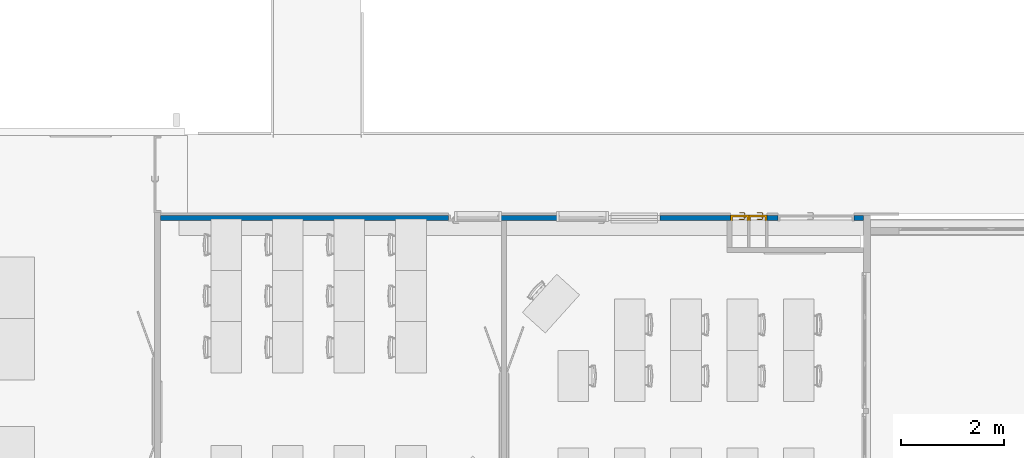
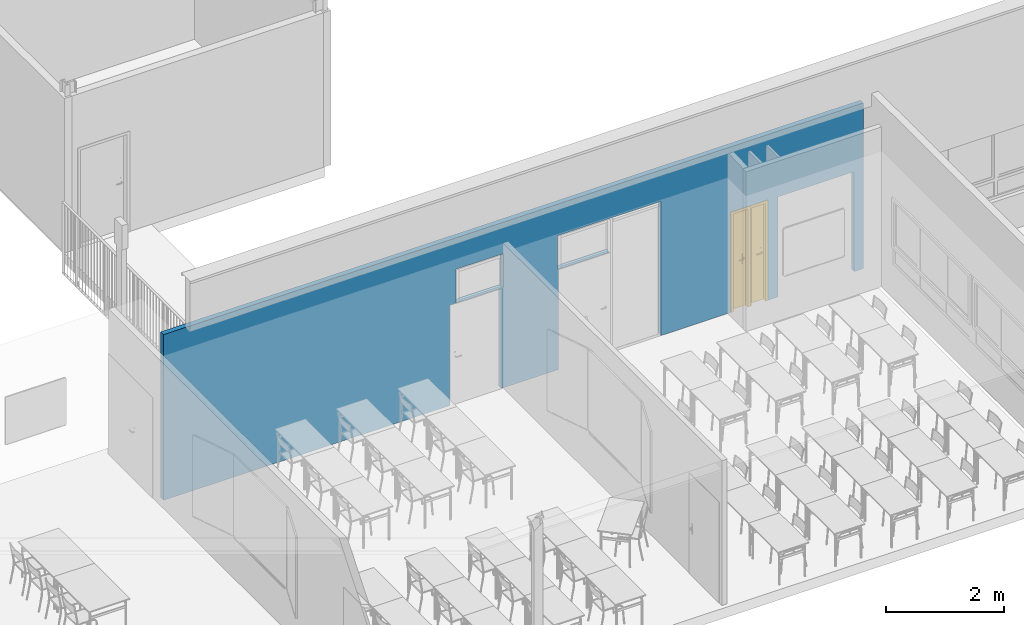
# One storey, part 19 of 44: 2 doors, 1 wall, 8 openings.
"""IFC2X3 building model written with IfcOpenShell, lengths in centimetres."""

from ifc_helpers import new_model, entity, si_unit, converted_unit, derived_unit, direction, frame, frame_2d, origin, place, context, subcontext, project, spatial, rectangle, extrude, faceted_brep, source, transform, mapped, material, material_list, layer, layer_set, layer_usage, type_object, type_shapes, element, fill, save


model = new_model("IFC2X3")

# Units and contexts
model_context = context("Model", 3, precision=0.001, world=origin(), true_north=direction((6.12303176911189e-17, 1.0)))
body_context = subcontext(model_context, "Body", "Model", "MODEL_VIEW")
ifc_project = project(units=[si_unit("LENGTHUNIT", "METRE", prefix="CENTI"), si_unit("AREAUNIT", "SQUARE_METRE"), si_unit("VOLUMEUNIT", "CUBIC_METRE"), converted_unit("PLANEANGLEUNIT", "DEGREE", entity("IfcRatioMeasure", 0.0174532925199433), si_unit("PLANEANGLEUNIT", "RADIAN"), dimensions=[0, 0, 0, 0, 0, 0, 0]), si_unit("MASSUNIT", "GRAM", prefix="KILO"), si_unit("TIMEUNIT", "SECOND"), si_unit("FREQUENCYUNIT", "HERTZ"), si_unit("THERMODYNAMICTEMPERATUREUNIT", "DEGREE_CELSIUS"), derived_unit("THERMALTRANSMITTANCEUNIT", [(si_unit("MASSUNIT", "GRAM", prefix="KILO"), 1), (si_unit("THERMODYNAMICTEMPERATUREUNIT", "KELVIN"), -1), (si_unit("TIMEUNIT", "SECOND"), -3)]), derived_unit("VOLUMETRICFLOWRATEUNIT", [(si_unit("LENGTHUNIT", "METRE"), 3), (si_unit("TIMEUNIT", "SECOND"), -1)]), si_unit("ELECTRICCURRENTUNIT", "AMPERE"), si_unit("ELECTRICVOLTAGEUNIT", "VOLT"), si_unit("POWERUNIT", "WATT"), si_unit("FORCEUNIT", "NEWTON", prefix="KILO"), si_unit("ILLUMINANCEUNIT", "LUX"), si_unit("LUMINOUSFLUXUNIT", "LUMEN"), si_unit("LUMINOUSINTENSITYUNIT", "CANDELA"), derived_unit("USERDEFINED", [(si_unit("MASSUNIT", "GRAM", prefix="KILO"), -1), (si_unit("LENGTHUNIT", "METRE"), -2), (si_unit("TIMEUNIT", "SECOND"), 3), (si_unit("LUMINOUSFLUXUNIT", "LUMEN"), 1)]), derived_unit("LINEARVELOCITYUNIT", [(si_unit("LENGTHUNIT", "METRE"), 1), (si_unit("TIMEUNIT", "SECOND"), -1)]), si_unit("PRESSUREUNIT", "PASCAL"), derived_unit("USERDEFINED", [(si_unit("LENGTHUNIT", "METRE"), -2), (si_unit("MASSUNIT", "GRAM", prefix="KILO"), 1), (si_unit("TIMEUNIT", "SECOND"), -2)])], contexts=[model_context])

# Site, building, storey
site_placement = place(None, frame((8.62739174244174, -249.285249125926, 0.0)))
site = spatial("IfcSite", under=ifc_project, at=site_placement, Name="Default", CompositionType="ELEMENT")
building_placement = place(site_placement, origin())
building = spatial("IfcBuilding", under=site, at=building_placement, CompositionType="ELEMENT")
storey_placement = place(building_placement, frame((0.0, 0.0, 343.0)))
storey = spatial("IfcBuildingStorey", under=building, at=storey_placement, Name="R+1", CompositionType="ELEMENT", Elevation=343.0)

# Wall, openings, doors
ifc_material_1 = material(Name="Plâtre EXISTANT")
ifc_layer = layer(ifc_material_1, 10.0)
ifc_layer_set = layer_set([ifc_layer], Name="Mur de base:PLA EXISTANT 10")
ifc_layer_usage = layer_usage(ifc_layer_set, "AXIS2", "POSITIVE", -5.0)
wall_type = type_object("IfcWallType", Name="Mur de base:PLA EXISTANT 10", PredefinedType="STANDARD", material=ifc_layer_set)
wall_placement = place(storey_placement, frame((803.905471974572, 770.0, 0.0)))
wall = element("IfcWallStandardCase", 1, at=wall_placement, inside=storey, type_object=wall_type, material=ifc_layer_usage, Name="Mur de base:PLA EXISTANT 10", ObjectType="Mur de base:PLA EXISTANT 10", context=body_context, shape_type="SweptSolid", body=[
    extrude(rectangle(XDim=1370.99935583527, YDim=10.0000000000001, at=frame_2d((685.499677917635, 2.22044604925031e-15), x_axis=(-1.0, 0.0))), origin(), (0.0, 0.0, 1.0), 343.000000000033),
])
opening_1_placement = place(wall_placement, origin())
element("IfcOpeningElement", 2, at=opening_1_placement, cuts=wall, Name="Mur de base:PLA EXISTANT 10", ObjectType="Opening", context=body_context, shape_type="SweptSolid", body=[
    extrude(rectangle(XDim=69.4999999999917, YDim=102.0, at=frame_2d((-5.32907051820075e-14, 0.0), x_axis=(1.0, 0.0))), frame((822.999355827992, -20.2399999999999, 243.249999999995), z_axis=(0.0, 1.0, 0.0), x_axis=(0.0, 0.0, 1.0)), (0.0, 0.0, 1.0), 40.48),
])
opening_2_placement = place(wall_placement, origin())
element("IfcOpeningElement", 3, at=opening_2_placement, cuts=wall, Name="Mur de base:PLA EXISTANT 10", ObjectType="Opening", context=body_context, shape_type="SweptSolid", body=[
    extrude(rectangle(XDim=277.999999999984, YDim=100.0, at=frame_2d((2.16715534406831e-13, 0.0), x_axis=(0.0, 1.0))), frame((923.999355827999, -20.2399999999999, 139.0), z_axis=(0.0, 1.0, 0.0), x_axis=(-1.0, 0.0, 0.0)), (0.0, 0.0, 1.0), 40.48),
])
opening_3_placement = place(wall_placement, origin())
element("IfcOpeningElement", 4, at=opening_3_placement, cuts=wall, Name="Mur de base:PLA EXISTANT 10", ObjectType="Opening", context=body_context, shape_type="SweptSolid", body=[
    extrude(rectangle(XDim=69.4999999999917, YDim=91.9506441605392, at=frame_2d((-2.1316282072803e-13, -5.32907051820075e-14), x_axis=(0.0, 1.0))), frame((619.02467791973, -20.2399999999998, 243.249999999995), z_axis=(0.0, 1.0, 0.0), x_axis=(-1.0, 0.0, 0.0)), (0.0, 0.0, 1.0), 40.48),
])
opening_4_placement = place(wall_placement, frame((873.999355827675, 5.0, 0.0)))
element("IfcOpeningElement", 5, at=opening_4_placement, cuts=wall, Name="Simple(R)_bois_mu:93 x 204 cm:1", ObjectType="Opening", context=body_context, shape_type="SweptSolid", body=[
    extrude(rectangle(XDim=207.499999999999, YDim=99.9999999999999, at=frame_2d((103.749999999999, 50.0), x_axis=(1.0, 0.0))), frame((0.0, 0.0, 0.0), z_axis=(0.0, -1.0, 0.0), x_axis=(0.0, 0.0, 1.0)), (0.0, 0.0, 1.0), 10.0),
])
opening_5_placement = place(wall_placement, frame((661.524677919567, 5.0, 0.0)))
element("IfcOpeningElement", 6, at=opening_5_placement, cuts=wall, Name="Simple(R)_bois_mu:93 x 204 cm:1", ObjectType="Opening", context=body_context, shape_type="SweptSolid", body=[
    extrude(rectangle(XDim=207.499999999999, YDim=99.9999999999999, at=frame_2d((103.749999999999, 50.0), x_axis=(1.0, 0.0))), frame((0.0, 0.0, 0.0), z_axis=(0.0, -1.0, 0.0), x_axis=(0.0, 0.0, 1.0)), (0.0, 0.0, 1.0), 10.0),
])
opening_6_placement = place(wall_placement, frame((1146.99935582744, -5.0, 0.0)))
opening_6 = element("IfcOpeningElement", 7, at=opening_6_placement, cuts=wall, Name="Simple(R)_bois_Existant_mu:30 x 204 cm:1", ObjectType="Opening", context=body_context, shape_type="SweptSolid", body=[
    extrude(rectangle(XDim=206.999999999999, YDim=36.0, at=frame_2d((103.499999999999, 18.0000000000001), x_axis=(1.0, 0.0))), frame((0.0, 0.0, 0.0), z_axis=(0.0, 1.0, 0.0), x_axis=(0.0, 0.0, 1.0)), (0.0, 0.0, 1.0), 10.0),
])
opening_7_placement = place(wall_placement, frame((1111.99935583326, -5.0, 0.0)))
opening_7 = element("IfcOpeningElement", 8, at=opening_7_placement, cuts=wall, Name="Simple(R)_bois_Existant_mu:30 x 204 cm:1", ObjectType="Opening", context=body_context, shape_type="SweptSolid", body=[
    extrude(rectangle(XDim=206.999999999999, YDim=36.0, at=frame_2d((103.499999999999, 18.0000000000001), x_axis=(1.0, 0.0))), frame((0.0, 0.0, 0.0), z_axis=(0.0, 1.0, 0.0), x_axis=(0.0, 0.0, 1.0)), (0.0, 0.0, 1.0), 10.0),
])
opening_8_placement = place(wall_placement, frame((1203.99935583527, -5.0, 0.0)))
element("IfcOpeningElement", 9, at=opening_8_placement, cuts=wall, Name="Double(R)_bois_Existant_mu:143 x 204 cm:1", ObjectType="Opening", context=body_context, shape_type="SweptSolid", body=[
    extrude(rectangle(XDim=206.999999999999, YDim=149.0, at=frame_2d((103.499999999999, 74.5), x_axis=(1.0, 0.0))), frame((0.0, 0.0, 0.0), z_axis=(0.0, 1.0, 0.0), x_axis=(0.0, 0.0, 1.0)), (0.0, 0.0, 1.0), 10.0),
])
ifc_material_2 = material(Name="Porte - Poignée")
ifc_material_3 = material(Name="Porte - Cadre")
ifc_material_4 = material(Name="Porte - Panneau")
ifc_material_list_1 = material_list([ifc_material_2, ifc_material_3, ifc_material_4])
ifc_material_list_2 = material_list([ifc_material_2, ifc_material_3, ifc_material_4])
door_style = type_object("IfcDoorStyle", Name="30 x 204 cm", ConstructionType="NOTDEFINED", OperationType="SINGLE_SWING_RIGHT", ParameterTakesPrecedence=False, Sizeable=False, material=ifc_material_list_2)
shared_shape = source(origin(), body_context, "Body", "Brep", [
    faceted_brep([(8.29747013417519, 3.69999999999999, 100.778044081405), (7.89999999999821, 3.69999999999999, 100.699999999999), (7.89999999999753, 3.69999999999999, 99.2999999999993), (8.29747013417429, 3.69999999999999, 99.2219559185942), (8.70252986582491, 3.69999999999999, 99.2219559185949), (9.10000000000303, 3.69999999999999, 99.3000000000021), (9.10000000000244, 3.69999999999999, 100.699999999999), (8.70252986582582, 3.69999999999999, 100.778044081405), (9.10000000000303, 5.94852045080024, 99.3000000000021), (9.10000000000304, 5.94852045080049, 100.699999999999), (8.70252986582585, 6.1131579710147, 100.778044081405), (10.0838906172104, 7.49451872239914, 100.778044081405), (9.91610938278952, 7.89957845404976, 100.778044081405), (8.29747013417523, 6.2809392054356, 100.778044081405), (19.0684749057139, 6.84673156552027, 100.778044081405), (19.3548953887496, 7.13315204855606, 100.778044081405), (18.5884689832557, 7.89957845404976, 100.778044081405), (18.4206877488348, 7.49451872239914, 100.778044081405), (7.89999999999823, 6.44557672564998, 100.699999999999), (7.89999999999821, 6.44557672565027, 99.2999999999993), (8.29747013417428, 6.28093920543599, 99.2219559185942), (9.91610938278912, 7.8995784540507, 99.2219559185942), (10.08389061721, 7.49451872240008, 99.2219559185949), (8.7025298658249, 6.11315797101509, 99.2219559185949), (19.3548953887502, 7.1331520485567, 99.2219559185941), (19.0684749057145, 6.84673156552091, 99.2219559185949), (18.4206877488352, 7.49451872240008, 99.2219559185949), (18.5884689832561, 7.8995784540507, 99.2219559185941), (10.2485281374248, 7.09704858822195, 99.3000000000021), (10.248528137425, 7.09704858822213, 100.699999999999), (9.75147186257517, 8.29704858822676, 100.699999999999), (9.75147186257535, 8.29704858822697, 99.2999999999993), (14.2522904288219, 7.09704858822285, 99.3000000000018), (18.2560502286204, 7.09704858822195, 99.3000000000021), (18.2560502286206, 7.09704858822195, 100.699999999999), (14.2522891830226, 7.09704858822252, 100.699999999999), (14.2522891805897, 7.71249275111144, 100.787811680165), (18.75310650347, 8.29704858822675, 100.699999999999), (14.7600577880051, 8.29704858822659, 100.699999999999), (18.7531065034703, 8.29704858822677, 99.2999999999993), (13.7445206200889, 8.29704858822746, 99.2999999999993), (14.2522892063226, 7.71249274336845, 99.2121883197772), (18.7874210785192, 6.56567773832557, 99.3000000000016), (19.6359492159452, 7.41420587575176, 99.2999999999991), (19.635949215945, 7.4142058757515, 100.699999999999), (18.787421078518, 6.5656777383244, 100.699999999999)], [[[0, 1, 2, 3, 4, 5, 6, 7]], [[6, 5, 8, 9]], [[9, 10, 7, 6]], [[10, 11, 12, 13, 0, 7]], [[14, 15, 16, 17]], [[13, 18, 1, 0]], [[2, 1, 18, 19]], [[19, 20, 3, 2]], [[20, 21, 22, 23, 4, 3]], [[24, 25, 26, 27]], [[23, 8, 5, 4]], [[9, 8, 28, 29]], [[29, 11, 10, 9]], [[12, 30, 18, 13]], [[19, 18, 30, 31]], [[31, 21, 20, 19]], [[22, 28, 8, 23]], [[29, 28, 32, 33, 34, 35]], [[11, 35, 36]], [[16, 37, 38]], [[30, 12, 38]], [[38, 12, 36]], [[36, 35, 17]], [[17, 16, 36]], [[35, 11, 29]], [[34, 17, 35]], [[11, 36, 12]], [[38, 36, 16]], [[31, 30, 38, 37, 39, 40]], [[40, 41, 21]], [[41, 40, 27]], [[21, 31, 40]], [[39, 27, 40]], [[41, 32, 22]], [[22, 21, 41]], [[26, 32, 41]], [[28, 22, 32]], [[32, 26, 33]], [[26, 41, 27]], [[42, 25, 24, 43, 44, 15, 14, 45]], [[34, 33, 42, 45]], [[45, 14, 17, 34]], [[15, 44, 37, 16]], [[39, 37, 44, 43]], [[43, 24, 27, 39]], [[25, 42, 33, 26]]]),
    faceted_brep([(8.29747013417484, -1.30000000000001, 100.778044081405), (8.70252986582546, -1.30000000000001, 100.778044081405), (9.10000000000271, -1.30000000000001, 100.699999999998), (9.10000000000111, -1.30000000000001, 99.3000000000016), (8.70252986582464, -1.30000000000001, 99.2219559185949), (8.29747013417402, -1.30000000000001, 99.2219559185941), (7.89999999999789, -1.30000000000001, 99.2999999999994), (7.89999999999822, -1.30000000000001, 100.699999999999), (7.8999999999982, -4.06509507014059, 100.699999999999), (8.29747013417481, -3.90045754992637, 100.778044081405), (9.90235851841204, -5.50534593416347, 100.778044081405), (10.0701397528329, -5.10028620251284, 100.778044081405), (8.70252986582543, -3.73267631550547, 100.778044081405), (19.352181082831, -4.73891952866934, 100.778044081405), (19.0657605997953, -4.4524990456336, 100.778044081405), (18.4179734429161, -5.10028620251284, 100.778044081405), (18.585754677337, -5.50534593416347, 100.778044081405), (9.10000000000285, -3.56803879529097, 100.699999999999), (9.10000000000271, -3.56803879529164, 99.3000000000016), (8.70252986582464, -3.7326763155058, 99.2219559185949), (10.0701397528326, -5.10028620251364, 99.2219559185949), (9.90235851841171, -5.50534593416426, 99.2219559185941), (8.29747013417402, -3.9004575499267, 99.2219559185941), (19.0657605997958, -4.45249904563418, 99.2219559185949), (19.3521810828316, -4.73891952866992, 99.2219559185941), (18.5857546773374, -5.50534593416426, 99.2219559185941), (18.4179734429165, -5.10028620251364, 99.2219559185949), (7.89999999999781, -4.06509507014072, 99.2999999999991), (9.73772099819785, -5.90281606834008, 100.699999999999), (10.2347772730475, -4.70281606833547, 100.699999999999), (10.2347772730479, -4.70281606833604, 99.3000000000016), (9.73772099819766, -5.90281606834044, 99.2999999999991), (13.7307697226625, -5.90281606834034, 100.699999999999), (14.2440566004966, -5.31828027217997, 100.787811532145), (18.7503921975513, -5.90281606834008, 100.699999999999), (14.2440565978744, -4.70281606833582, 100.699999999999), (18.2533359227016, -4.70281606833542, 100.699999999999), (18.2533359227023, -4.70281606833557, 99.3000000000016), (14.2440563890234, -4.70281606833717, 99.3000000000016), (14.244056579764, -5.31828027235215, 99.2121884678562), (18.7503921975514, -5.90281606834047, 99.2999999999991), (14.7573433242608, -5.90281606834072, 99.2999999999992), (18.7847067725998, -4.1714452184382, 100.699999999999), (19.6332349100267, -5.01997335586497, 100.699999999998), (19.6332349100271, -5.01997335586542, 99.2999999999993), (18.7847067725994, -4.17144521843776, 99.3000000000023)], [[[0, 1, 2, 3, 4, 5, 6, 7]], [[8, 9, 0, 7]], [[9, 10, 11, 12, 1, 0]], [[13, 14, 15, 16]], [[12, 17, 2, 1]], [[3, 2, 17, 18]], [[18, 19, 4, 3]], [[19, 20, 21, 22, 5, 4]], [[23, 24, 25, 26]], [[22, 27, 6, 5]], [[7, 6, 27, 8]], [[28, 10, 9, 8]], [[11, 29, 17, 12]], [[18, 17, 29, 30]], [[30, 20, 19, 18]], [[21, 31, 27, 22]], [[8, 27, 31, 28]], [[32, 33, 10]], [[33, 32, 16]], [[10, 28, 32]], [[34, 16, 32]], [[33, 35, 11]], [[11, 10, 33]], [[15, 35, 33]], [[29, 11, 35]], [[35, 15, 36]], [[15, 33, 16]], [[30, 29, 35, 36, 37, 38]], [[20, 38, 39]], [[25, 40, 41]], [[31, 21, 41]], [[41, 21, 39]], [[39, 38, 26]], [[26, 25, 39]], [[38, 20, 30]], [[37, 26, 38]], [[20, 39, 21]], [[41, 39, 25]], [[28, 31, 41, 40, 34, 32]], [[42, 14, 13, 43, 44, 24, 23, 45]], [[43, 13, 16, 34]], [[14, 42, 36, 15]], [[37, 36, 42, 45]], [[45, 23, 26, 37]], [[24, 44, 40, 25]], [[34, 40, 44, 43]]]),
    faceted_brep([(9.53527618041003, 3.19999999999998, 86.6003983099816), (10.4999999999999, 3.19999999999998, 87.0), (10.4999999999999, 3.19999999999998, 108.0), (9.53527618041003, 3.19999999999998, 108.399601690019), (8.49999999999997, 3.19999999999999, 108.535898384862), (7.46472381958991, 3.19999999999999, 108.399601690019), (6.5, 3.19999999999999, 108.0), (6.50000000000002, 3.19999999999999, 87.0), (7.4647238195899, 3.19999999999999, 86.6003983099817), (8.49999999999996, 3.19999999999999, 86.4641016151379), (9.53527618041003, 3.69999999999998, 108.399601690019), (10.4999999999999, 3.69999999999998, 108.0), (10.4999999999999, 3.69999999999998, 87.0), (9.53527618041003, 3.69999999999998, 86.6003983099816), (8.49999999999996, 3.69999999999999, 86.4641016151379), (7.4647238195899, 3.69999999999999, 86.6003983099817), (6.5, 3.69999999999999, 87.0), (6.50000000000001, 3.69999999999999, 108.0), (7.46472381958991, 3.69999999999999, 108.399601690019), (8.49999999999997, 3.69999999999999, 108.535898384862)], [[[0, 1, 2, 3, 4, 5, 6, 7, 8, 9]], [[10, 11, 12, 13, 14, 15, 16, 17, 18, 19]], [[11, 10, 3, 2]], [[3, 10, 19, 4]], [[19, 18, 5, 4]], [[18, 17, 6, 5]], [[7, 6, 17, 16]], [[16, 15, 8, 7]], [[8, 15, 14, 9]], [[14, 13, 0, 9]], [[13, 12, 1, 0]], [[2, 1, 12, 11]]]),
    faceted_brep([(9.53527618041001, -1.30000000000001, 86.6003983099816), (10.4999999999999, -1.30000000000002, 87.0), (10.4999999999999, -1.30000000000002, 108.0), (9.53527618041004, -1.30000000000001, 108.399601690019), (8.49999999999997, -1.30000000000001, 108.535898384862), (7.46472381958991, -1.30000000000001, 108.399601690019), (6.5, -1.3, 108.0), (6.49999999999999, -1.3, 87.0), (7.46472381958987, -1.30000000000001, 86.6003983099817), (8.49999999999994, -1.30000000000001, 86.4641016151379), (9.53527618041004, -0.800000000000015, 108.399601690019), (10.4999999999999, -0.800000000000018, 108.0), (10.4999999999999, -0.800000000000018, 87.0), (9.53527618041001, -0.800000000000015, 86.6003983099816), (8.49999999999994, -0.800000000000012, 86.4641016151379), (7.46472381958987, -0.800000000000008, 86.6003983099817), (6.49999999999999, -0.800000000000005, 87.0), (6.5, -0.800000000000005, 108.0), (7.46472381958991, -0.800000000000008, 108.399601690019), (8.49999999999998, -0.800000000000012, 108.535898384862)], [[[0, 1, 2, 3, 4, 5, 6, 7, 8, 9]], [[10, 11, 12, 13, 14, 15, 16, 17, 18, 19]], [[16, 15, 8, 7]], [[8, 15, 14, 9]], [[14, 13, 0, 9]], [[13, 12, 1, 0]], [[2, 1, 12, 11]], [[11, 10, 3, 2]], [[3, 10, 19, 4]], [[19, 18, 5, 4]], [[18, 17, 6, 5]], [[7, 6, 17, 16]]]),
    faceted_brep([(0.0, 0.0, 0.0), (0.0, 10.0, 0.0), (-1.0, 10.0, 0.0), (-1.0, 10.8000000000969, 0.0), (4.0, 10.8000000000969, 0.0), (4.0, 3.2, 0.0), (3.0, 3.2, 0.0), (3.0, -0.799999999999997, 0.0), (-1.0, -0.799999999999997, 0.0), (-1.0, 0.0, 0.0), (0.0, 0.0, 207.0), (0.0, 10.0, 207.0), (36.0, 10.0, 207.0), (36.0, 10.0, 0.0), (37.0, 10.0, 0.0), (37.0, 10.0, 208.0), (-1.0, 10.0, 208.0), (-1.0, 10.8000000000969, 208.0), (37.0, 10.8000000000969, 208.0), (37.0, 10.8000000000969, 0.0), (32.0, 10.8000000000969, 0.0), (32.0, 10.8000000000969, 203.0), (4.0, 10.8000000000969, 203.0), (4.0, 3.2, 203.0), (32.0, 3.2, 203.0), (32.0, 3.2, 0.0), (33.0, 3.2, 0.0), (33.0, 3.2, 204.0), (3.0, 3.2, 204.0), (3.0, -0.799999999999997, 204.0), (33.0, -0.799999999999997, 204.0), (33.0, -0.799999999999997, 0.0), (37.0, -0.799999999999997, 0.0), (37.0, -0.799999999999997, 208.0), (-1.0, -0.799999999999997, 208.0), (-1.0, 0.0, 208.0), (37.0, 0.0, 208.0), (37.0, 0.0, 0.0), (36.0, 0.0, 0.0), (36.0, 0.0, 207.0)], [[[0, 1, 2, 3, 4, 5, 6, 7, 8, 9]], [[1, 0, 10, 11]], [[2, 1, 11, 12, 13, 14, 15, 16]], [[3, 2, 16, 17]], [[4, 3, 17, 18, 19, 20, 21, 22]], [[5, 4, 22, 23]], [[6, 5, 23, 24, 25, 26, 27, 28]], [[7, 6, 28, 29]], [[8, 7, 29, 30, 31, 32, 33, 34]], [[9, 8, 34, 35]], [[0, 9, 35, 36, 37, 38, 39, 10]], [[12, 39, 38, 13]], [[38, 37, 32, 31, 26, 25, 20, 19, 14, 13]], [[18, 15, 14, 19]], [[24, 21, 20, 25]], [[30, 27, 26, 31]], [[36, 33, 32, 37]], [[11, 10, 39, 12]], [[17, 16, 15, 18]], [[23, 22, 21, 24]], [[29, 28, 27, 30]], [[35, 34, 33, 36]]]),
    faceted_brep([(3.0, -0.799999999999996, 204.0), (3.0, -0.799999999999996, 0.0), (33.0, -0.799999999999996, 0.0), (33.0, -0.799999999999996, 204.0), (3.0, 3.2, 204.0), (33.0, 3.2, 204.0), (33.0, 3.2, 0.0), (3.0, 3.2, 0.0)], [[[0, 1, 2, 3]], [[4, 5, 6, 7]], [[1, 0, 4, 7]], [[2, 1, 7, 6]], [[3, 2, 6, 5]], [[0, 3, 5, 4]]]),
])
type_shapes(door_style, [shared_shape])
door_1_placement = place(opening_7_placement, frame((36.0, 10.0, 0.0), z_axis=(0.0, 0.0, 1.0), x_axis=(-1.0, 0.0, 0.0)))
door_1 = element("IfcDoor", 10, at=door_1_placement, inside=storey, type_object=door_style, material=ifc_material_list_1, Name="Simple(R)_bois_Existant_mu:30 x 204 cm", ObjectType="30 x 204 cm", OverallHeight=206.999999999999, OverallWidth=36.0, context=body_context, shape_type="MappedRepresentation", body=[
    mapped(shared_shape, transform((0.0, 0.0, 0.0), scale=1.0)),
])
fill(opening_7, door_1)
ifc_material_list_3 = material_list([ifc_material_2, ifc_material_3, ifc_material_4])
door_2_placement = place(opening_6_placement, frame((36.0, 10.0, 0.0), z_axis=(0.0, 0.0, 1.0), x_axis=(-1.0, 0.0, 0.0)))
door_2 = element("IfcDoor", 11, at=door_2_placement, inside=storey, type_object=door_style, material=ifc_material_list_3, Name="Simple(R)_bois_Existant_mu:30 x 204 cm", ObjectType="30 x 204 cm", OverallHeight=206.999999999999, OverallWidth=36.0, context=body_context, shape_type="MappedRepresentation", body=[
    mapped(shared_shape, transform((0.0, 0.0, 0.0), scale=1.0)),
])
fill(opening_6, door_2)

save(model, "model.ifc")
